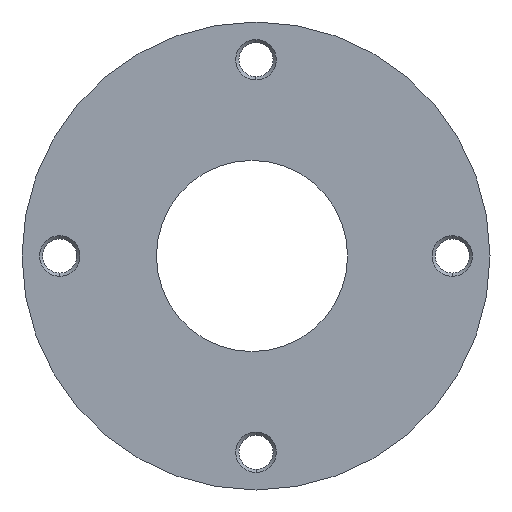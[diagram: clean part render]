
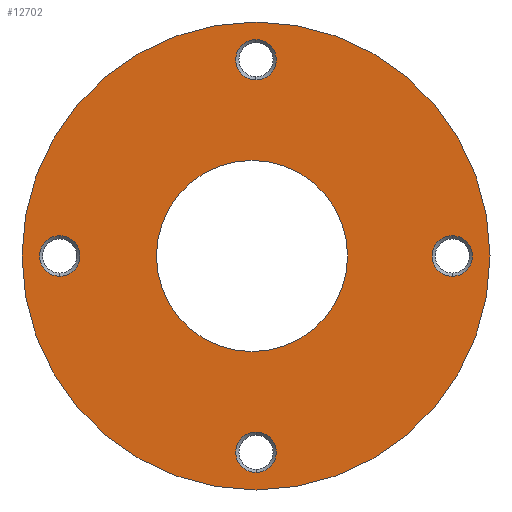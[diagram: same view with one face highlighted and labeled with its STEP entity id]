
A CAD part, left-side view. The second image highlights one B-rep face of the part: STEP entity #12702.
In plain terms, the highlighted planar face has unit normal (-1, 0, 0).
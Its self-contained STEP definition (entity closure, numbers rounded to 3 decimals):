
#14 = AXIS2_PLACEMENT_3D ( 'NONE', #14963, #11677, #5718 ) ;
#118 = DIRECTION ( 'NONE',  ( -1., 0., 0. ) ) ;
#126 = DIRECTION ( 'NONE',  ( 0., 0., 1. ) ) ;
#139 = EDGE_LOOP ( 'NONE', ( #13309, #12639 ) ) ;
#198 = CARTESIAN_POINT ( 'NONE',  ( -74.666, 0.792, 0. ) ) ;
#316 = CIRCLE ( 'NONE', #14453, 4.025 ) ;
#430 = AXIS2_PLACEMENT_3D ( 'NONE', #9081, #6756, #13893 ) ;
#478 = ORIENTED_EDGE ( 'NONE', *, *, #12347, .F. ) ;
#538 = ORIENTED_EDGE ( 'NONE', *, *, #13795, .F. ) ;
#748 = ORIENTED_EDGE ( 'NONE', *, *, #15078, .F. ) ;
#854 = DIRECTION ( 'NONE',  ( 0., 0., 1. ) ) ;
#1104 = ORIENTED_EDGE ( 'NONE', *, *, #12924, .F. ) ;
#1288 = VERTEX_POINT ( 'NONE', #12408 ) ;
#1411 = DIRECTION ( 'NONE',  ( -1., 0., 0. ) ) ;
#1458 = DIRECTION ( 'NONE',  ( -1., 0., 0. ) ) ;
#1560 = AXIS2_PLACEMENT_3D ( 'NONE', #13399, #2693, #8592 ) ;
#1670 = ORIENTED_EDGE ( 'NONE', *, *, #7204, .F. ) ;
#1735 = DIRECTION ( 'NONE',  ( -1., 0., 0. ) ) ;
#1899 = EDGE_LOOP ( 'NONE', ( #7028, #2443 ) ) ;
#2139 = VERTEX_POINT ( 'NONE', #7134 ) ;
#2325 = CARTESIAN_POINT ( 'NONE',  ( -74.666, 39., 0. ) ) ;
#2443 = ORIENTED_EDGE ( 'NONE', *, *, #11086, .F. ) ;
#2643 = AXIS2_PLACEMENT_3D ( 'NONE', #198, #118, #8274 ) ;
#2693 = DIRECTION ( 'NONE',  ( -1., 0., 0. ) ) ;
#2720 = CARTESIAN_POINT ( 'NONE',  ( -74.666, 39., -4.025 ) ) ;
#2765 = DIRECTION ( 'NONE',  ( -1., 0., 0. ) ) ;
#2770 = FACE_BOUND ( 'NONE', #12013, .T. ) ;
#3006 = VERTEX_POINT ( 'NONE', #11822 ) ;
#3032 = DIRECTION ( 'NONE',  ( -1., 0., 0. ) ) ;
#3180 = CIRCLE ( 'NONE', #11841, 19. ) ;
#3234 = CARTESIAN_POINT ( 'NONE',  ( -74.666, 0., 46.5 ) ) ;
#3264 = CARTESIAN_POINT ( 'NONE',  ( -74.666, 0., 0. ) ) ;
#3296 = AXIS2_PLACEMENT_3D ( 'NONE', #3264, #5366, #11335 ) ;
#3591 = EDGE_CURVE ( 'NONE', #12729, #3006, #3180, .T. ) ;
#3898 = VERTEX_POINT ( 'NONE', #2720 ) ;
#4090 = CARTESIAN_POINT ( 'NONE',  ( -74.666, 0., 39. ) ) ;
#4095 = FACE_BOUND ( 'NONE', #11412, .T. ) ;
#4132 = EDGE_CURVE ( 'NONE', #9406, #2139, #8121, .T. ) ;
#4158 = VERTEX_POINT ( 'NONE', #6604 ) ;
#4203 = DIRECTION ( 'NONE',  ( -1., 0., 0. ) ) ;
#4265 = EDGE_CURVE ( 'NONE', #1288, #7069, #10111, .T. ) ;
#4469 = VERTEX_POINT ( 'NONE', #4906 ) ;
#4718 = VERTEX_POINT ( 'NONE', #7465 ) ;
#4906 = CARTESIAN_POINT ( 'NONE',  ( -74.666, 39., 4.025 ) ) ;
#5007 = ORIENTED_EDGE ( 'NONE', *, *, #4265, .F. ) ;
#5023 = CARTESIAN_POINT ( 'NONE',  ( -74.666, 0.792, 19. ) ) ;
#5174 = FACE_BOUND ( 'NONE', #9699, .T. ) ;
#5366 = DIRECTION ( 'NONE',  ( 1., 0., 0. ) ) ;
#5718 = DIRECTION ( 'NONE',  ( 0., 0., 1. ) ) ;
#5723 = CIRCLE ( 'NONE', #9185, 4.025 ) ;
#5840 = VERTEX_POINT ( 'NONE', #10109 ) ;
#6103 = CIRCLE ( 'NONE', #12544, 4.025 ) ;
#6336 = FACE_BOUND ( 'NONE', #1899, .T. ) ;
#6473 = CIRCLE ( 'NONE', #14, 4.025 ) ;
#6528 = CARTESIAN_POINT ( 'NONE',  ( -74.666, 0., -39. ) ) ;
#6604 = CARTESIAN_POINT ( 'NONE',  ( -74.666, 0., -34.975 ) ) ;
#6756 = DIRECTION ( 'NONE',  ( 1., 0., 0. ) ) ;
#7010 = EDGE_CURVE ( 'NONE', #4158, #8924, #6473, .T. ) ;
#7028 = ORIENTED_EDGE ( 'NONE', *, *, #3591, .F. ) ;
#7069 = VERTEX_POINT ( 'NONE', #3234 ) ;
#7134 = CARTESIAN_POINT ( 'NONE',  ( -74.666, -39., -4.025 ) ) ;
#7204 = EDGE_CURVE ( 'NONE', #5840, #4718, #8705, .T. ) ;
#7355 = CIRCLE ( 'NONE', #2643, 19. ) ;
#7378 = ORIENTED_EDGE ( 'NONE', *, *, #8570, .F. ) ;
#7465 = CARTESIAN_POINT ( 'NONE',  ( -74.666, 0., 34.975 ) ) ;
#7469 = CIRCLE ( 'NONE', #11166, 4.025 ) ;
#7771 = DIRECTION ( 'NONE',  ( 0., 0., 1. ) ) ;
#7864 = CARTESIAN_POINT ( 'NONE',  ( -74.666, -39., 0. ) ) ;
#8121 = CIRCLE ( 'NONE', #14356, 4.025 ) ;
#8222 = DIRECTION ( 'NONE',  ( 0., 0., 1. ) ) ;
#8274 = DIRECTION ( 'NONE',  ( 0., 0., 1. ) ) ;
#8570 = EDGE_CURVE ( 'NONE', #4718, #5840, #5723, .T. ) ;
#8592 = DIRECTION ( 'NONE',  ( 0., 0., 1. ) ) ;
#8673 = CARTESIAN_POINT ( 'NONE',  ( -74.666, 39., 0. ) ) ;
#8705 = CIRCLE ( 'NONE', #9682, 4.025 ) ;
#8764 = EDGE_LOOP ( 'NONE', ( #5007, #1104 ) ) ;
#8906 = FACE_OUTER_BOUND ( 'NONE', #8764, .T. ) ;
#8924 = VERTEX_POINT ( 'NONE', #13249 ) ;
#8948 = DIRECTION ( 'NONE',  ( 0., 0., 1. ) ) ;
#9063 = DIRECTION ( 'NONE',  ( -1., 0., 0. ) ) ;
#9081 = CARTESIAN_POINT ( 'NONE',  ( -74.666, 0., 0. ) ) ;
#9099 = CARTESIAN_POINT ( 'NONE',  ( -74.666, -39., 4.025 ) ) ;
#9185 = AXIS2_PLACEMENT_3D ( 'NONE', #4090, #2765, #11060 ) ;
#9233 = EDGE_CURVE ( 'NONE', #2139, #9406, #7469, .T. ) ;
#9391 = ORIENTED_EDGE ( 'NONE', *, *, #7010, .F. ) ;
#9406 = VERTEX_POINT ( 'NONE', #9099 ) ;
#9682 = AXIS2_PLACEMENT_3D ( 'NONE', #14098, #9063, #13874 ) ;
#9699 = EDGE_LOOP ( 'NONE', ( #1670, #7378 ) ) ;
#9989 = PLANE ( 'NONE',  #1560 ) ;
#10094 = AXIS2_PLACEMENT_3D ( 'NONE', #2325, #1458, #8222 ) ;
#10109 = CARTESIAN_POINT ( 'NONE',  ( -74.666, 0., 43.025 ) ) ;
#10111 = CIRCLE ( 'NONE', #430, 46.5 ) ;
#10640 = DIRECTION ( 'NONE',  ( 0., 0., 1. ) ) ;
#11060 = DIRECTION ( 'NONE',  ( 0., 0., 1. ) ) ;
#11086 = EDGE_CURVE ( 'NONE', #3006, #12729, #7355, .T. ) ;
#11166 = AXIS2_PLACEMENT_3D ( 'NONE', #7864, #1735, #8948 ) ;
#11335 = DIRECTION ( 'NONE',  ( 0., 0., -1. ) ) ;
#11412 = EDGE_LOOP ( 'NONE', ( #9391, #748 ) ) ;
#11677 = DIRECTION ( 'NONE',  ( -1., 0., 0. ) ) ;
#11822 = CARTESIAN_POINT ( 'NONE',  ( -74.666, 0.792, -19. ) ) ;
#11841 = AXIS2_PLACEMENT_3D ( 'NONE', #14373, #1411, #10640 ) ;
#11957 = CIRCLE ( 'NONE', #3296, 46.5 ) ;
#12013 = EDGE_LOOP ( 'NONE', ( #478, #538 ) ) ;
#12347 = EDGE_CURVE ( 'NONE', #4469, #3898, #14809, .T. ) ;
#12408 = CARTESIAN_POINT ( 'NONE',  ( -74.666, 0., -46.5 ) ) ;
#12496 = CARTESIAN_POINT ( 'NONE',  ( -74.666, -39., 0. ) ) ;
#12544 = AXIS2_PLACEMENT_3D ( 'NONE', #6528, #4203, #854 ) ;
#12639 = ORIENTED_EDGE ( 'NONE', *, *, #9233, .F. ) ;
#12702 = ADVANCED_FACE ( 'NONE', ( #2770, #14568, #4095, #5174, #6336, #8906 ), #9989, .T. ) ;
#12729 = VERTEX_POINT ( 'NONE', #5023 ) ;
#12924 = EDGE_CURVE ( 'NONE', #7069, #1288, #11957, .T. ) ;
#13249 = CARTESIAN_POINT ( 'NONE',  ( -74.666, 0., -43.025 ) ) ;
#13309 = ORIENTED_EDGE ( 'NONE', *, *, #4132, .F. ) ;
#13399 = CARTESIAN_POINT ( 'NONE',  ( -74.666, 0., 0. ) ) ;
#13795 = EDGE_CURVE ( 'NONE', #3898, #4469, #316, .T. ) ;
#13874 = DIRECTION ( 'NONE',  ( 0., 0., 1. ) ) ;
#13893 = DIRECTION ( 'NONE',  ( 0., 0., -1. ) ) ;
#14098 = CARTESIAN_POINT ( 'NONE',  ( -74.666, 0., 39. ) ) ;
#14356 = AXIS2_PLACEMENT_3D ( 'NONE', #12496, #3032, #7771 ) ;
#14373 = CARTESIAN_POINT ( 'NONE',  ( -74.666, 0.792, 0. ) ) ;
#14453 = AXIS2_PLACEMENT_3D ( 'NONE', #8673, #14498, #126 ) ;
#14498 = DIRECTION ( 'NONE',  ( -1., 0., 0. ) ) ;
#14568 = FACE_BOUND ( 'NONE', #139, .T. ) ;
#14809 = CIRCLE ( 'NONE', #10094, 4.025 ) ;
#14963 = CARTESIAN_POINT ( 'NONE',  ( -74.666, 0., -39. ) ) ;
#15078 = EDGE_CURVE ( 'NONE', #8924, #4158, #6103, .T. ) ;
